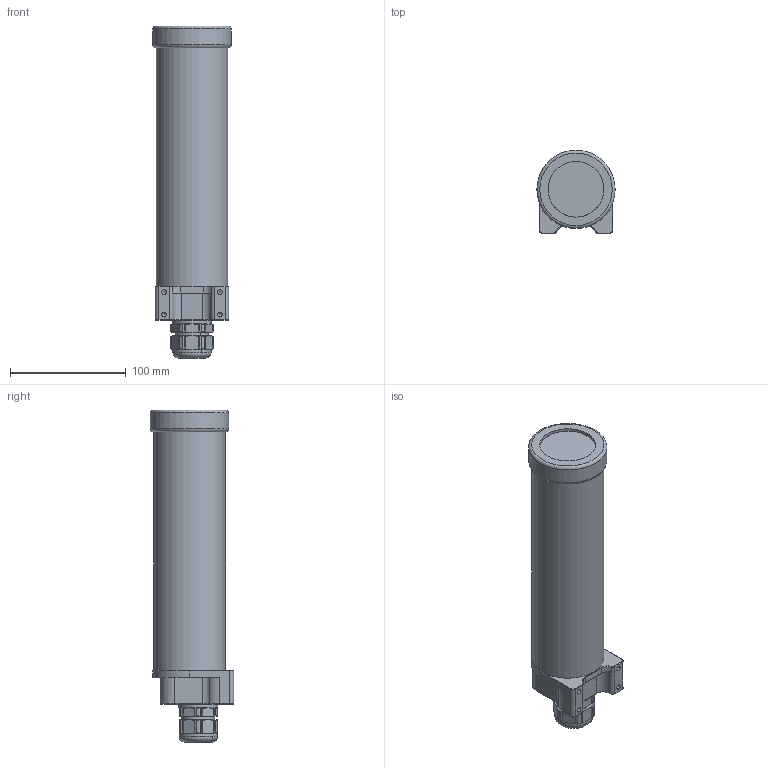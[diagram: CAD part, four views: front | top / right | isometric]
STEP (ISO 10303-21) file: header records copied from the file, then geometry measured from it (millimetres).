
FILE_DESCRIPTION (( 'STEP AP203' ), '1' );
FILE_NAME ('24C-AN.STEP', '2023-01-10T13:43:23', ( '' ), ( '' ), 'SwSTEP 2.0', 'SolidWorks 2021', '' );
FILE_SCHEMA (( 'CONFIG_CONTROL_DESIGN' ));
Length unit declared in the file: inch
Products named in the file (15): 200717; 200428; 200321; PG21-S01; PG21-01-01-01-03; PG21-I01; 500031; 4452K541; PG21-N03; 9452K141_Expanded; 24C-AN; 400119; 91292A108_91292A108; PG21-B01; 200393
Assembly tree (17 placements, depth 3):
  24C-AN
    200321
    200428
    200393
    200717
    400119
    500031
    PG21-01-01-01-03
      PG21-B01
      PG21-I01
      PG21-S01
      PG21-N03
    4452K541  x2
    9452K141_Expanded
    91292A108_91292A108  x3
Bounding box: 67.82 x 72.01 x 287.39 mm (x, y, z)
Volume: 227653.9 mm3; surface area: 156805.8 mm2
Topology: 17 solids, 17 shells, 718 faces, 1883 edges, 1215 vertices
Faces by surface type: cylinder 290, plane 273, cone 136, bspline 12, torus 7
Full cylindrical faces by diameter (mm): 3.3 x4, 4.2 x4, 4.216 x3, 7 x3, 9.065 x2, 20.5 x2, 22.75 x1, 23.65 x1, 26.75 x1, 28.3 x2, 29.3 x1, 33.5 x1, 48.26 x2, 55.486 x1, 57.15 x1, 58.166 x1, 59.182 x1, 59.436 x1, 59.69 x1, 59.842 x1, 59.944 x1, 61.976 x1, 62.23 x1, 62.992 x1, 64.77 x1, 65.024 x1, 67.818 x1
Entity records: 25297 total; most frequent: CARTESIAN_POINT 7895, DIRECTION 3320, ORIENTED_EDGE 3230, EDGE_CURVE 1615, AXIS2_PLACEMENT_3D 1309, VERTEX_POINT 1072, EDGE_LOOP 767, VECTOR 702
